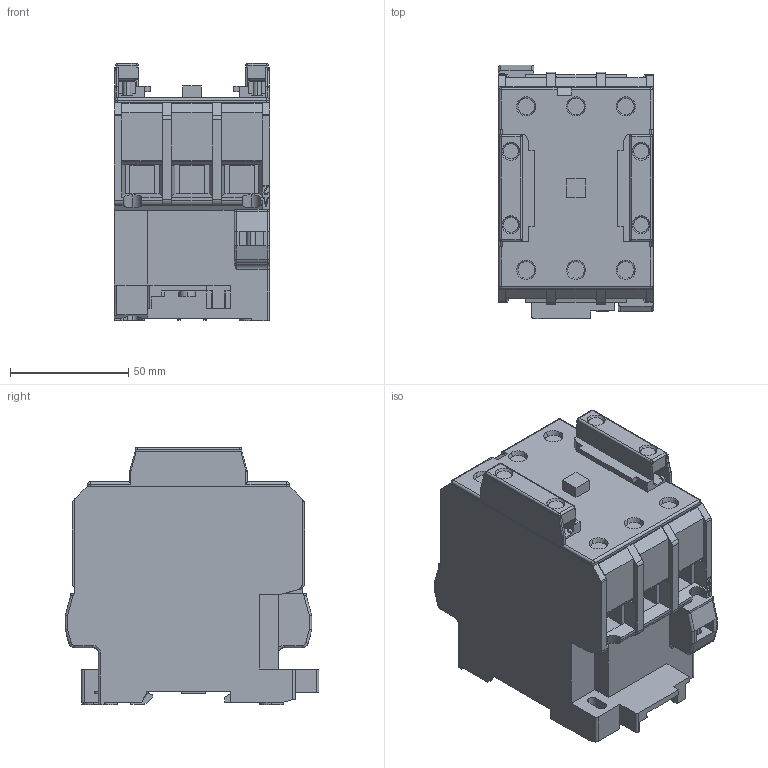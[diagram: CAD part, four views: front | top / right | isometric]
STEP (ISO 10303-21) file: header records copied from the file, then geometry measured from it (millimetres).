
FILE_DESCRIPTION (( 'STEP AP214' ), '1' );
FILE_NAME ('RSC43_RSC63.STEP', '2025-11-20T14:46:20', ( '' ), ( '' ), 'SwSTEP 2.0', 'SolidWorks 2025', '' );
FILE_SCHEMA (( 'AUTOMOTIVE_DESIGN' ));
Length unit declared in the file: millimetre
Products named in the file (1): RSC43_RSC63
Bounding box: 65.5 x 107 x 108.5 mm (x, y, z)
Volume: 490191.5 mm3; surface area: 68773.7 mm2
Topology: 1 solids, 12 shells, 970 faces, 2695 edges, 1760 vertices
Faces by surface type: plane 746, cylinder 174, cone 26, sphere 12, torus 8, bspline 4
Entity records: 31456 total; most frequent: CARTESIAN_POINT 6474, ORIENTED_EDGE 5366, DIRECTION 4906, EDGE_CURVE 2683, VECTOR 2266, LINE 2266, VERTEX_POINT 1760, AXIS2_PLACEMENT_3D 1320
